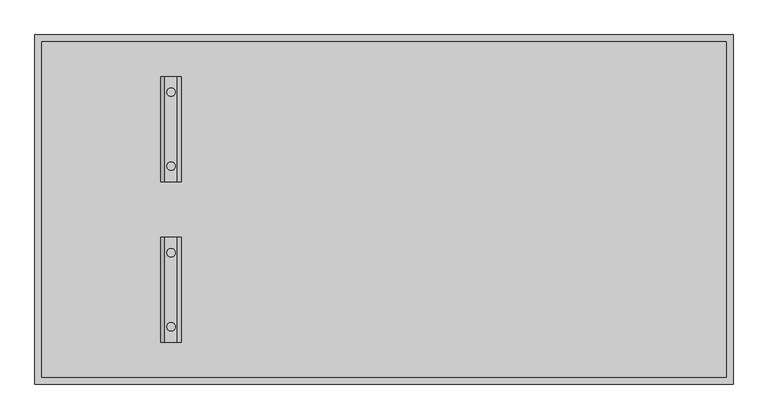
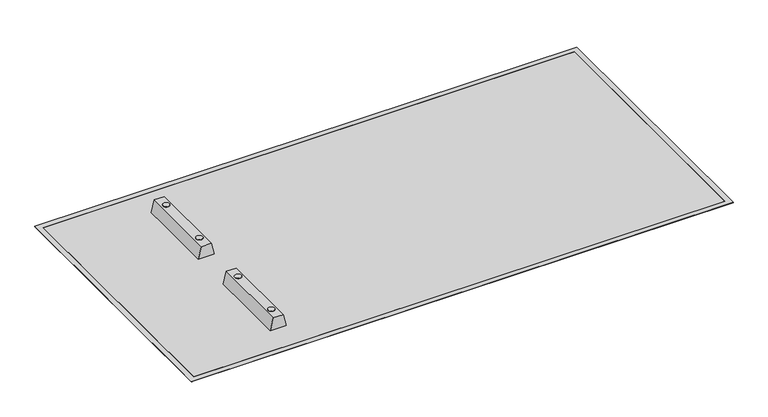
"""IFC4 building model written with IfcOpenShell, lengths in millimetres: proxy geometry, XX171-주차선 표기(일반용) : XX171-주차선 표기(일반용)_라인(2.5X5.0)."""

from ifc_helpers import new_model, si_unit, point, frame, frame_2d, origin, origin_with_axes, place, context, project, spatial, polyline, circle_curve, trimmed, segment, composite_curve, outline, extrude, source, transform, mapped, element, save


def parking_7176ef04(model_context):
    return source(origin(), model_context, "Body", "SweptSolid", [
        extrude(outline(composite_curve([segment(trimmed(circle_curve(frame_2d((-1525.0, -310.0)), 30.0), [point((-1525.0, -340.0))], [point((-1525.0, -280.0))], False, "CARTESIAN"), True, "CONTINUOUS"), segment(trimmed(circle_curve(frame_2d((-1525.0, -310.0)), 30.0), [point((-1525.0, -280.0))], [point((-1525.0, -340.0))], False, "CARTESIAN"), True, "CONTINUOUS")], self_intersect=False)), frame((0.0, 0.0, 117.0), z_axis=(0.0, 0.0, 1.0), x_axis=(1.0, 0.0, 0.0)), (0.0, 0.0, 1.0), 3.0),
        extrude(outline(composite_curve([segment(trimmed(circle_curve(frame_2d((-1525.0, -840.0)), 30.0), [point((-1525.0, -870.0))], [point((-1525.0, -810.0))], False, "CARTESIAN"), True, "CONTINUOUS"), segment(trimmed(circle_curve(frame_2d((-1525.0, -840.0)), 30.0), [point((-1525.0, -810.0))], [point((-1525.0, -870.0))], False, "CARTESIAN"), True, "CONTINUOUS")], self_intersect=False)), frame((0.0, 0.0, 117.0), z_axis=(0.0, 0.0, 1.0), x_axis=(1.0, 0.0, 0.0)), (0.0, 0.0, 1.0), 3.0),
        extrude(outline(polyline([(117.0, -1480.0), (117.0, -1570.0), (0.0, -1600.0), (0.0, -1450.0), (117.0, -1480.0)])), frame((0.0, -950.0, 0.0), z_axis=(0.0, 1.0, 0.0), x_axis=(0.0, 0.0, 1.0)), (0.0, 0.0, 1.0), 750.0),
        extrude(outline(composite_curve([segment(trimmed(circle_curve(frame_2d((-1525.0, 840.0)), 30.0), [point((-1525.0, 810.0))], [point((-1525.0, 870.0))], False, "CARTESIAN"), True, "CONTINUOUS"), segment(trimmed(circle_curve(frame_2d((-1525.0, 840.0)), 30.0), [point((-1525.0, 870.0))], [point((-1525.0, 810.0))], False, "CARTESIAN"), True, "CONTINUOUS")], self_intersect=False)), frame((0.0, 0.0, 117.0), z_axis=(0.0, 0.0, 1.0), x_axis=(1.0, 0.0, 0.0)), (0.0, 0.0, 1.0), 3.0),
        extrude(outline(composite_curve([segment(trimmed(circle_curve(frame_2d((-1525.0, 310.0)), 30.0), [point((-1525.0, 280.0))], [point((-1525.0, 340.0))], False, "CARTESIAN"), True, "CONTINUOUS"), segment(trimmed(circle_curve(frame_2d((-1525.0, 310.0)), 30.0), [point((-1525.0, 340.0))], [point((-1525.0, 280.0))], False, "CARTESIAN"), True, "CONTINUOUS")], self_intersect=False)), frame((0.0, 0.0, 117.0), z_axis=(0.0, 0.0, 1.0), x_axis=(1.0, 0.0, 0.0)), (0.0, 0.0, 1.0), 3.0),
        extrude(outline(polyline([(117.0, -1480.0), (117.0, -1570.0), (0.0, -1600.0), (0.0, -1450.0), (117.0, -1480.0)])), frame((0.0, 200.0, 0.0), z_axis=(0.0, 1.0, 0.0), x_axis=(0.0, 0.0, 1.0)), (0.0, 0.0, 1.0), 750.0),
        extrude(outline(polyline([(2450.0, 1200.0), (2450.0, -1200.0), (-2450.0, -1200.0), (-2450.0, 1200.0), (2450.0, 1200.0)])), origin_with_axes(), (0.0, 0.0, 1.0), 2.0),
        extrude(outline(polyline([(2500.0, 1250.0), (2500.0, -1250.0), (-2500.0, -1250.0), (-2500.0, 1250.0), (2500.0, 1250.0)]), holes=[polyline([(2450.0, 1200.0), (-2450.0, 1200.0), (-2450.0, -1200.0), (2450.0, -1200.0), (2450.0, 1200.0)])]), origin_with_axes(), (0.0, 0.0, 1.0), 2.0),
    ])


if __name__ == "__main__":
    model = new_model("IFC4")
    model_context = context("Model", 3, world=origin())
    ifc_project = project(units=[si_unit("LENGTHUNIT", "METRE", prefix="MILLI")], contexts=[model_context])
    site = spatial("IfcSite", under=ifc_project)
    building = spatial("IfcBuilding", under=site)
    placement = place(None, origin())
    parking_shape = parking_7176ef04(model_context)
    element("IfcBuildingElementProxy", 1, Name="XX171-주차선 표기(일반용) : XX171-주차선 표기(일반용)_라인(2.5X5.0)", ObjectType="XX171-주차선 표기(일반용) : XX171-주차선 표기(일반용)_라인(2.5X5.0)", at=placement, inside=building, context=model_context, shape_type="MappedRepresentation", body=[
        mapped(parking_shape, transform((0.0, 0.0, 0.0), x_axis=(1.0, 0.0, 0.0), y_axis=(0.0, 1.0, 0.0), z_axis=(0.0, 0.0, 1.0))),
    ])
    save(model, "model.ifc")
